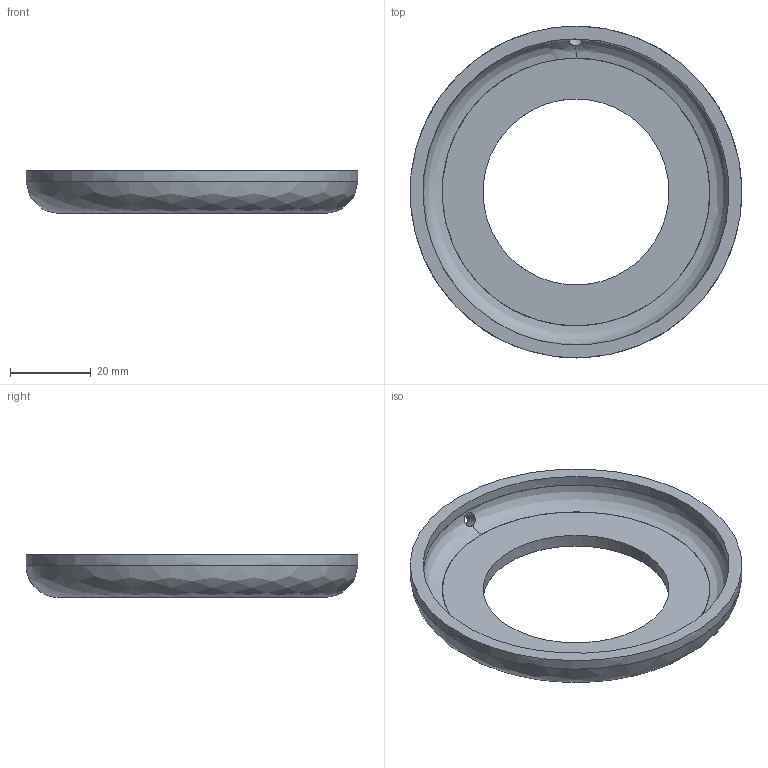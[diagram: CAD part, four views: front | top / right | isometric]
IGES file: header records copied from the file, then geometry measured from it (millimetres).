
Start section: JAMA-IS VERSION  1.0
Global section: file name: E:\tools-models\その他メーカー2\INOAC車輪\7月\HP-100WJ\HP-100WJ-12.igs; native system: CAM-TOOL; preprocessor: C3out Version 11.1.1.50212 (2015/02/12); author: NONE; organization: NONE; date: 200704.164839; units: millimetre
Bounding box: 82.14 x 82.14 x 10.56 mm (x, y, z)
Surface area: 10821.2 mm2 (no closed solid volume)
Topology: 0 solids, 0 shells, 9 faces, 255 edges, 260 vertices
Faces by surface type: bspline 9
